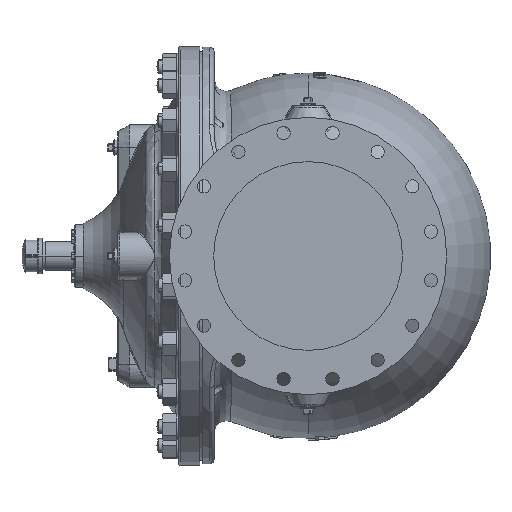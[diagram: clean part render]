
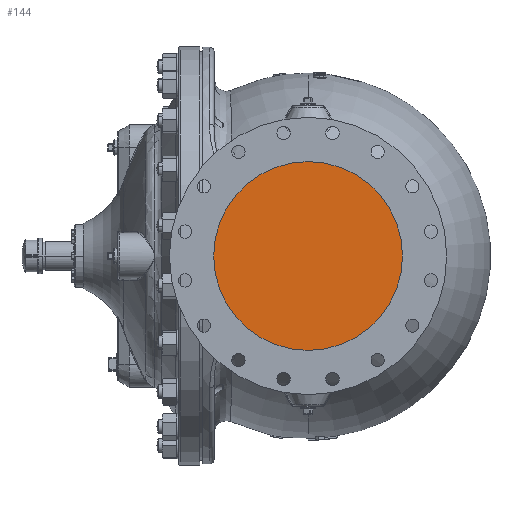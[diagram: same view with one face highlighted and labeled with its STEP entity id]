
A CAD part, left-side view. The second image highlights one B-rep face of the part: STEP entity #144.
In plain terms, the highlighted planar face has unit normal (-1, 0, 0).
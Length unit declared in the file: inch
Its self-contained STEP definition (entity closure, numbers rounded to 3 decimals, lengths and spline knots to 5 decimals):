
#144 = ADVANCED_FACE ( 'NONE', ( #30990 ), #33579, .T. ) ;
#6732 = CARTESIAN_POINT ( 'NONE',  ( -19.19, 0., 0. ) ) ;
#11686 = DIRECTION ( 'NONE',  ( -1., 0., 0. ) ) ;
#12868 = DIRECTION ( 'NONE',  ( 0., 0., 1. ) ) ;
#17967 = VERTEX_POINT ( 'NONE', #27479 ) ;
#23671 = CARTESIAN_POINT ( 'NONE',  ( -19.19, 0., -8. ) ) ;
#27479 = CARTESIAN_POINT ( 'NONE',  ( -19.19, 0., 8. ) ) ;
#28845 = AXIS2_PLACEMENT_3D ( 'NONE', #6732, #49316, #12868 ) ;
#30990 = FACE_OUTER_BOUND ( 'NONE', #47350, .T. ) ;
#31470 = DIRECTION ( 'NONE',  ( 0., 0., 1. ) ) ;
#31717 = DIRECTION ( 'NONE',  ( -1., 0., 0. ) ) ;
#33063 = CARTESIAN_POINT ( 'NONE',  ( -19.19, 0., 0. ) ) ;
#33579 = PLANE ( 'NONE',  #54702 ) ;
#39622 = AXIS2_PLACEMENT_3D ( 'NONE', #48136, #11686, #54313 ) ;
#41364 = CIRCLE ( 'NONE', #39622, 8. ) ;
#47350 = EDGE_LOOP ( 'NONE', ( #72551, #72943 ) ) ;
#48136 = CARTESIAN_POINT ( 'NONE',  ( -19.19, 0., 0. ) ) ;
#49316 = DIRECTION ( 'NONE',  ( -1., 0., 0. ) ) ;
#54313 = DIRECTION ( 'NONE',  ( 0., 0., 1. ) ) ;
#54702 = AXIS2_PLACEMENT_3D ( 'NONE', #33063, #31717, #31470 ) ;
#56699 = CIRCLE ( 'NONE', #28845, 8. ) ;
#68235 = VERTEX_POINT ( 'NONE', #23671 ) ;
#72551 = ORIENTED_EDGE ( 'NONE', *, *, #73023, .T. ) ;
#72943 = ORIENTED_EDGE ( 'NONE', *, *, #73528, .T. ) ;
#73023 = EDGE_CURVE ( 'NONE', #17967, #68235, #56699, .T. ) ;
#73528 = EDGE_CURVE ( 'NONE', #68235, #17967, #41364, .T. ) ;
